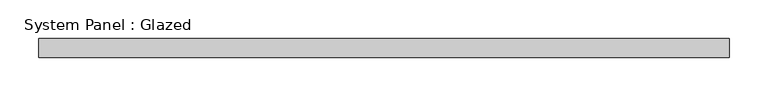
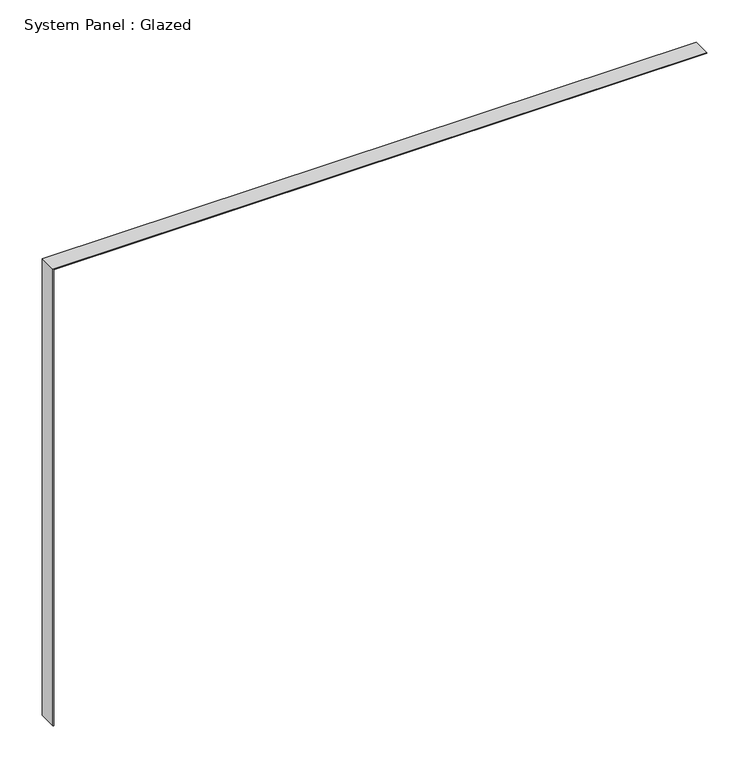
"""IFC4 building model written with IfcOpenShell, lengths in millimetres: plate geometry, System Panel : Glazed."""

from ifc_helpers import new_model, si_unit, frame, origin, place, context, project, spatial, polyline, outline, extrude, source, transform, mapped, element, save


def system_panel_glazed_5bfc719e(model_context):
    return source(origin(), model_context, "Body", "SweptSolid", [
        extrude(outline(polyline([(0.0, -447.9999975), (0.0, -446.7893797), (660.0, -446.7893797), (660.0, 447.9999975), (661.25, 447.9999975), (661.25, -447.9999975), (0.0, -447.9999975)])), frame((0.0, -72.5, 0.0), z_axis=(0.0, 1.0, 0.0), x_axis=(0.0, 0.0, 1.0)), (0.0, 0.0, 1.0), 25.0),
    ])


if __name__ == "__main__":
    model = new_model("IFC4")
    model_context = context("Model", 3, world=origin())
    ifc_project = project(units=[si_unit("LENGTHUNIT", "METRE", prefix="MILLI")], contexts=[model_context])
    site = spatial("IfcSite", under=ifc_project)
    building = spatial("IfcBuilding", under=site)
    placement = place(None, origin())
    system_panel_glazed_shape = system_panel_glazed_5bfc719e(model_context)
    element("IfcPlate", 1, ObjectType="System Panel : Glazed", at=placement, inside=building, context=model_context, shape_type="MappedRepresentation", body=[
        mapped(system_panel_glazed_shape, transform((0.0, 0.0, 0.0), x_axis=(1.0, 0.0, 0.0), y_axis=(0.0, 1.0, 0.0), z_axis=(0.0, 0.0, 1.0))),
    ])
    save(model, "model.ifc")
